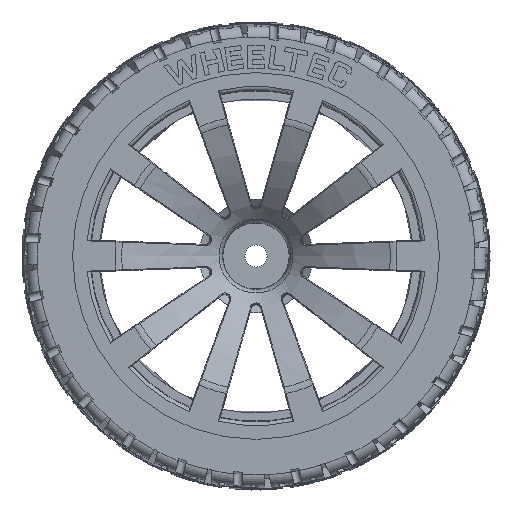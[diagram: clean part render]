
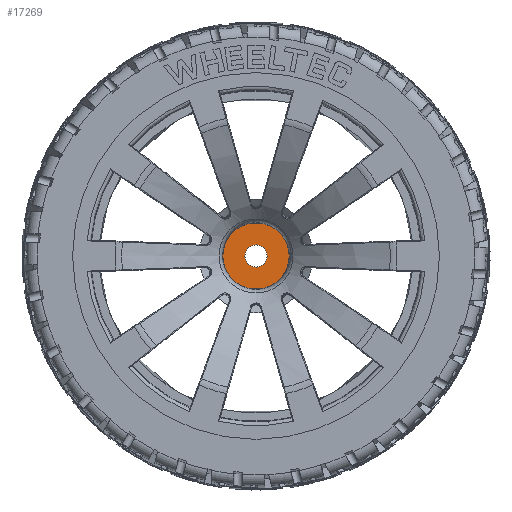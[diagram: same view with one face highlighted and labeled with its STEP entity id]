
A CAD part, front view. The second image highlights one B-rep face of the part: STEP entity #17269.
In plain terms, the highlighted planar face has unit normal (0, -1, 0).
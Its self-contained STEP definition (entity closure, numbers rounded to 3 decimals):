
#11509=CARTESIAN_POINT('',(-6.021,-1.381,0.));
#11510=VERTEX_POINT('',#11509);
#11517=CARTESIAN_POINT('',(0.,-1.381,6.021));
#11518=VERTEX_POINT('',#11517);
#11519=CARTESIAN_POINT('',(0.,-1.381,0.));
#11520=DIRECTION('',(-1.,0.,0.));
#11521=DIRECTION('',(0.,1.,0.));
#11522=AXIS2_PLACEMENT_3D('',#11519,#11521,#11520);
#11523=CIRCLE('',#11522,6.021);
#11524=EDGE_CURVE('',#11510,#11518,#11523,.T.);
#11526=CARTESIAN_POINT('',(0.,-1.381,0.));
#11527=DIRECTION('',(0.,0.,1.));
#11528=DIRECTION('',(0.,1.,0.));
#11529=AXIS2_PLACEMENT_3D('',#11526,#11528,#11527);
#11530=CIRCLE('',#11529,6.021);
#11531=EDGE_CURVE('',#11518,#11510,#11530,.T.);
#17240=CARTESIAN_POINT('',(0.,-1.381,0.));
#17241=DIRECTION('',(0.,0.,1.));
#17242=DIRECTION('',(0.,-1.,0.));
#17243=AXIS2_PLACEMENT_3D('',#17240,#17242,#17241);
#17244=PLANE('',#17243);
#17245=ORIENTED_EDGE('',*,*,#11524,.F.);
#17246=ORIENTED_EDGE('',*,*,#11531,.F.);
#17247=EDGE_LOOP('',(#17245,#17246));
#17248=FACE_OUTER_BOUND('',#17247,.T.);
#17249=CARTESIAN_POINT('',(0.,-1.381,2.));
#17250=VERTEX_POINT('',#17249);
#17251=CARTESIAN_POINT('',(0.,-1.381,-2.));
#17252=VERTEX_POINT('',#17251);
#17253=CARTESIAN_POINT('',(0.,-1.381,0.));
#17254=DIRECTION('',(0.,0.,1.));
#17255=DIRECTION('',(0.,1.,0.));
#17256=AXIS2_PLACEMENT_3D('',#17253,#17255,#17254);
#17257=CIRCLE('',#17256,2.);
#17258=EDGE_CURVE('',#17250,#17252,#17257,.T.);
#17259=ORIENTED_EDGE('',*,*,#17258,.T.);
#17260=CARTESIAN_POINT('',(0.,-1.381,0.));
#17261=DIRECTION('',(0.,0.,-1.));
#17262=DIRECTION('',(0.,1.,0.));
#17263=AXIS2_PLACEMENT_3D('',#17260,#17262,#17261);
#17264=CIRCLE('',#17263,2.);
#17265=EDGE_CURVE('',#17252,#17250,#17264,.T.);
#17266=ORIENTED_EDGE('',*,*,#17265,.T.);
#17267=EDGE_LOOP('',(#17259,#17266));
#17268=FACE_BOUND('',#17267,.T.);
#17269=ADVANCED_FACE('',(#17248,#17268),#17244,.T.);
